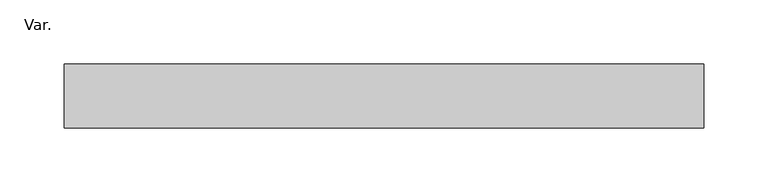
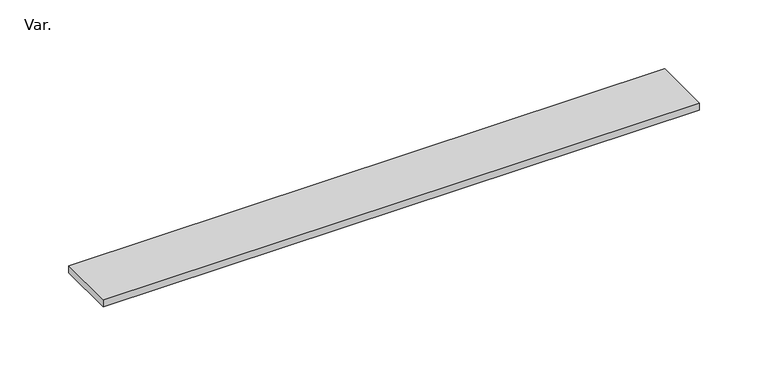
"""IFC4 building model written with IfcOpenShell, lengths in millimetres: pipe fitting geometry, AmancoWavin_Unionesdetubería_SilentiumDesagüeLineal : Var.."""

from ifc_helpers import new_model, si_unit, frame, origin, place, context, project, spatial, polyline, outline, extrude, source, transform, mapped, element, save


def var_daa025f4(model_context):
    return source(origin(), model_context, "Body", "SweptSolid", [
        extrude(outline(polyline([(51.5, 25.0), (51.5, -25.0), (-448.3, -25.0), (-448.3, 25.0), (51.5, 25.0)])), frame((0.0, 0.0, -5.7), z_axis=(0.0, 0.0, 1.0), x_axis=(1.0, 0.0, 0.0)), (0.0, 0.0, 1.0), 6.2),
    ])


if __name__ == "__main__":
    model = new_model("IFC4")
    model_context = context("Model", 3, world=origin())
    ifc_project = project(units=[si_unit("LENGTHUNIT", "METRE", prefix="MILLI")], contexts=[model_context])
    site = spatial("IfcSite", under=ifc_project)
    building = spatial("IfcBuilding", under=site)
    placement = place(None, origin())
    var_shape = var_daa025f4(model_context)
    element("IfcPipeFitting", 1, ObjectType="AmancoWavin_Unionesdetubería_SilentiumDesagüeLineal : Var.", at=placement, inside=building, context=model_context, shape_type="MappedRepresentation", body=[
        mapped(var_shape, transform((0.0, 0.0, 0.0), x_axis=(1.0, 0.0, 0.0), y_axis=(0.0, 1.0, 0.0), z_axis=(0.0, 0.0, 1.0))),
    ])
    save(model, "model.ifc")
